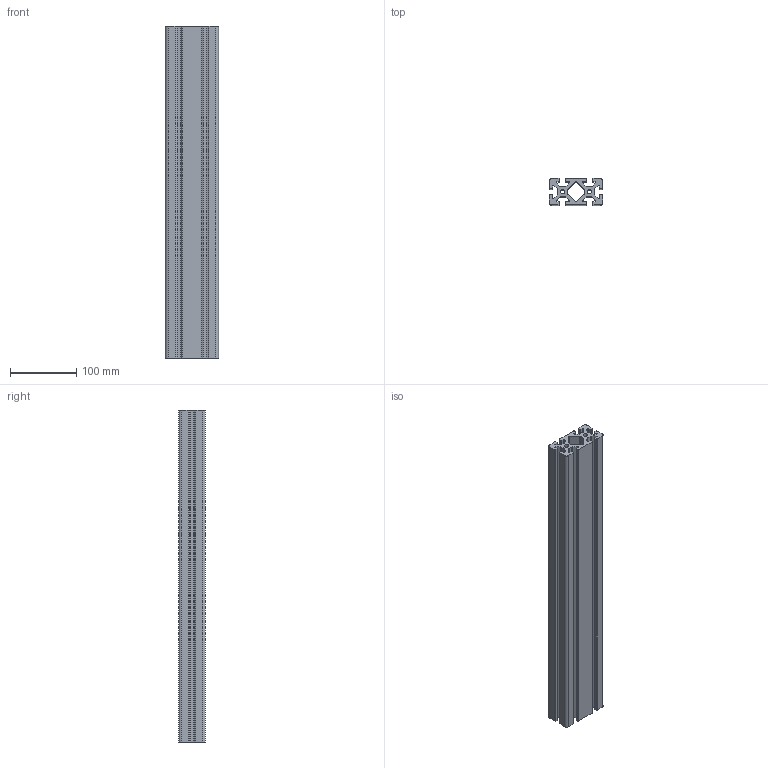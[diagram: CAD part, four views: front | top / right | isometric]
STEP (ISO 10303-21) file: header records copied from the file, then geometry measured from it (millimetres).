
FILE_DESCRIPTION (( 'STEP AP203' ), '1' );
FILE_NAME ('M ATP I8 4080.STEP', '2012-06-04T08:55:44', ( 'alle' ), ( 'Hewlett-Packard Company' ), 'SwSTEP 2.0', 'SolidWorks 2011', '' );
FILE_SCHEMA (( 'CONFIG_CONTROL_DESIGN' ));
Length unit declared in the file: millimetre
Products named in the file (1): M ATP I8 4080
Bounding box: 80 x 40 x 500 mm (x, y, z)
Volume: 837894.1 mm3; surface area: 296758.5 mm2
Topology: 1 solids, 1 shells, 126 faces, 372 edges, 248 vertices
Faces by surface type: cylinder 78, plane 48
Entity records: 4361 total; most frequent: DIRECTION 782, CARTESIAN_POINT 747, ORIENTED_EDGE 744, EDGE_CURVE 372, AXIS2_PLACEMENT_3D 283, VERTEX_POINT 248, VECTOR 216, LINE 216
